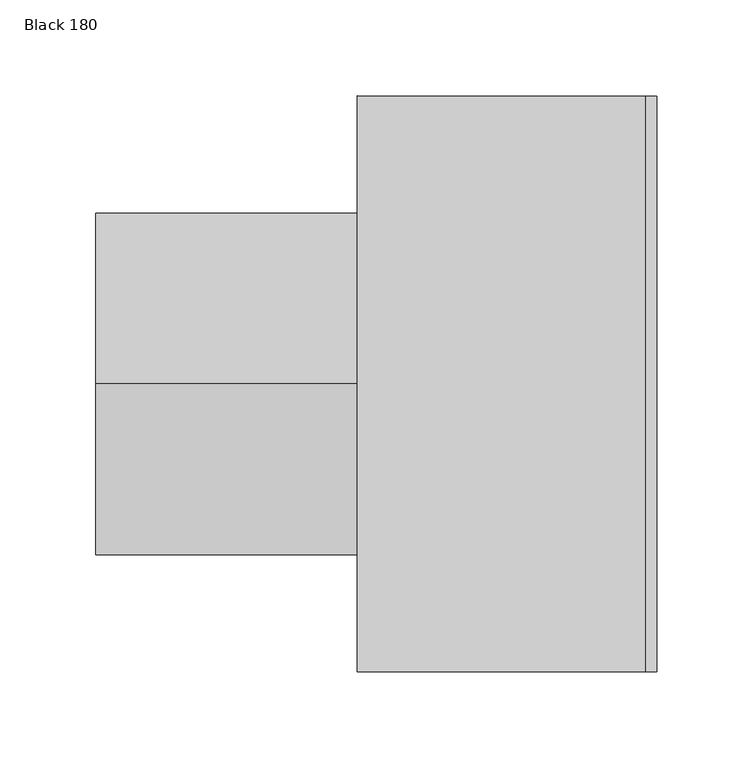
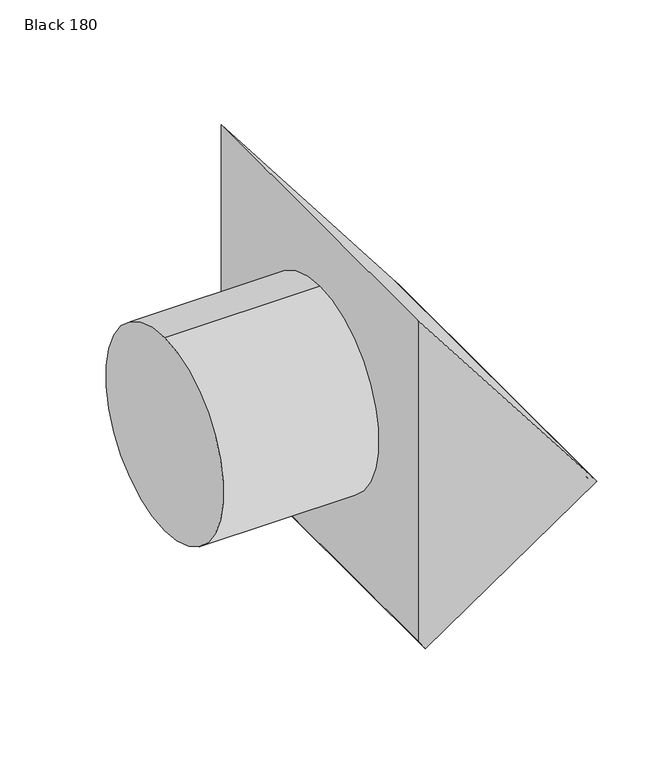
"""IFC4 building model written with IfcOpenShell, lengths in millimetres: air terminal geometry, NLRS_57_AIR_LB_walloutlet terminals_M&G : Black 180."""

from ifc_helpers import new_model, si_unit, point, frame, origin, origin_2d, place, context, project, spatial, circle_curve, trimmed, segment, composite_curve, outline, extrude, faceted_brep, source, transform, mapped, element, save


def black_180_da10aded(model_context):
    return source(origin(), model_context, "Body", "SolidModel", [
        extrude(outline(composite_curve([segment(trimmed(circle_curve(origin_2d(), 89.5), [point((0.0, 89.5))], [point((0.0, -89.5))], False, "CARTESIAN"), True, "CONTINUOUS"), segment(trimmed(circle_curve(origin_2d(), 89.5), [point((0.0, -89.5))], [point((0.0, 89.5))], False, "CARTESIAN"), True, "CONTINUOUS")], self_intersect=False)), frame((-136.0, 0.0, 0.0), z_axis=(1.0, 0.0, 0.0), x_axis=(0.0, 1.0, 0.0)), (0.0, 0.0, 1.0), 136.0),
        faceted_brep([(150.0, -150.0, -47.0), (0.0, -150.0, 148.0), (0.0, -150.0, -149.1514627), (5.5528144, -150.0, -157.3178195), (156.1108159, -150.0, -54.9440606), (150.0, 150.0, -47.0), (156.1108159, 150.0, -54.9440606), (5.5528144, 150.0, -157.3178195), (0.0, 150.0, -149.1514627), (0.0, 150.0, 148.0), (153.2165223, 146.5, -56.912071), (8.447108, 146.5, -155.3498091), (8.447108, -146.5, -155.3498091), (153.2165223, -146.5, -56.912071), (147.5936355, 146.5, -48.6426609), (147.5936355, -146.5, -48.6426609), (2.8242212, -146.5, -147.0803989), (2.8242212, 146.5, -147.0803989)], [[[0, 1, 2, 3, 4]], [[5, 6, 7, 8, 9]], [[1, 0, 5, 9]], [[2, 1, 9, 8]], [[3, 2, 8, 7]], [[4, 3, 7, 6], [10, 11, 12, 13]], [[0, 4, 6, 5]], [[14, 15, 16, 17]], [[14, 17, 11, 10]], [[17, 16, 12, 11]], [[16, 15, 13, 12]], [[15, 14, 10, 13]]]),
    ])


if __name__ == "__main__":
    model = new_model("IFC4")
    model_context = context("Model", 3, world=origin())
    ifc_project = project(units=[si_unit("LENGTHUNIT", "METRE", prefix="MILLI")], contexts=[model_context])
    site = spatial("IfcSite", under=ifc_project)
    building = spatial("IfcBuilding", under=site)
    placement = place(None, origin())
    black_180_shape = black_180_da10aded(model_context)
    element("IfcAirTerminal", 1, ObjectType="NLRS_57_AIR_LB_walloutlet terminals_M&G : Black 180", at=placement, inside=building, context=model_context, shape_type="MappedRepresentation", body=[
        mapped(black_180_shape, transform((0.0, 0.0, 0.0), x_axis=(1.0, 0.0, 0.0), y_axis=(0.0, 1.0, 0.0), z_axis=(0.0, 0.0, 1.0))),
    ])
    save(model, "model.ifc")
